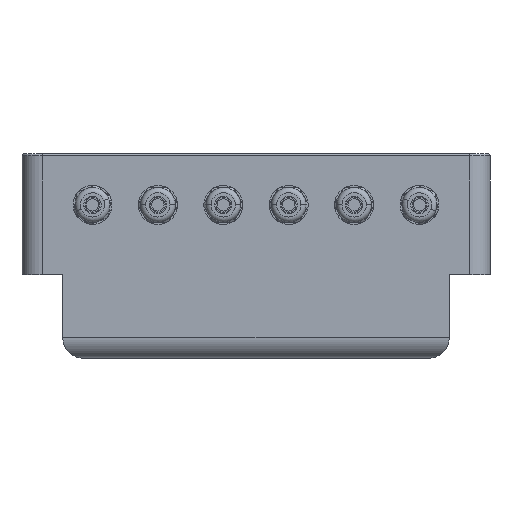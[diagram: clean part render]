
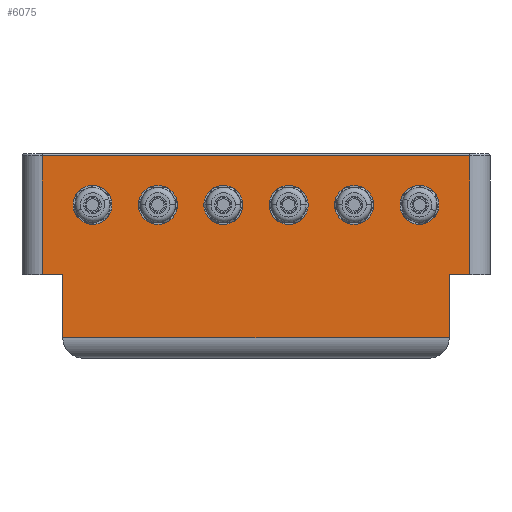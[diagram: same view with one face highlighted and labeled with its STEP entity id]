
A CAD part, front view. The second image highlights one B-rep face of the part: STEP entity #6075.
In plain terms, the highlighted planar face has unit normal (0, -1, 0).
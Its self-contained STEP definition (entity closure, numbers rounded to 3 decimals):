
#1282=CARTESIAN_POINT('',(-80.,-102.,25.));
#1283=DIRECTION('',(0.,1.,0.));
#1284=DIRECTION('',(-1.,0.,0.));
#1285=AXIS2_PLACEMENT_3D('',#1282,#1283,#1284);
#1287=CARTESIAN_POINT('',(-80.,-102.,25.));
#1288=DIRECTION('',(0.,1.,0.));
#1289=DIRECTION('',(1.,0.,0.));
#1290=AXIS2_PLACEMENT_3D('',#1287,#1288,#1289);
#1292=CARTESIAN_POINT('',(-48.,-102.,25.));
#1293=DIRECTION('',(0.,1.,0.));
#1294=DIRECTION('',(-1.,0.,0.));
#1295=AXIS2_PLACEMENT_3D('',#1292,#1293,#1294);
#1297=CARTESIAN_POINT('',(-48.,-102.,25.));
#1298=DIRECTION('',(0.,1.,0.));
#1299=DIRECTION('',(1.,0.,0.));
#1300=AXIS2_PLACEMENT_3D('',#1297,#1298,#1299);
#1302=CARTESIAN_POINT('',(-16.,-102.,25.));
#1303=DIRECTION('',(0.,1.,0.));
#1304=DIRECTION('',(-1.,0.,0.));
#1305=AXIS2_PLACEMENT_3D('',#1302,#1303,#1304);
#1307=CARTESIAN_POINT('',(-16.,-102.,25.));
#1308=DIRECTION('',(0.,1.,0.));
#1309=DIRECTION('',(1.,0.,0.));
#1310=AXIS2_PLACEMENT_3D('',#1307,#1308,#1309);
#1312=CARTESIAN_POINT('',(16.,-102.,25.));
#1313=DIRECTION('',(0.,-1.,0.));
#1314=DIRECTION('',(1.,0.,0.));
#1315=AXIS2_PLACEMENT_3D('',#1312,#1313,#1314);
#1317=CARTESIAN_POINT('',(16.,-102.,25.));
#1318=DIRECTION('',(0.,-1.,0.));
#1319=DIRECTION('',(-1.,0.,0.));
#1320=AXIS2_PLACEMENT_3D('',#1317,#1318,#1319);
#1322=CARTESIAN_POINT('',(48.,-102.,25.));
#1323=DIRECTION('',(0.,-1.,0.));
#1324=DIRECTION('',(1.,0.,0.));
#1325=AXIS2_PLACEMENT_3D('',#1322,#1323,#1324);
#1327=CARTESIAN_POINT('',(48.,-102.,25.));
#1328=DIRECTION('',(0.,-1.,0.));
#1329=DIRECTION('',(-1.,0.,0.));
#1330=AXIS2_PLACEMENT_3D('',#1327,#1328,#1329);
#1332=CARTESIAN_POINT('',(80.,-102.,25.));
#1333=DIRECTION('',(0.,-1.,0.));
#1334=DIRECTION('',(1.,0.,0.));
#1335=AXIS2_PLACEMENT_3D('',#1332,#1333,#1334);
#1337=CARTESIAN_POINT('',(80.,-102.,25.));
#1338=DIRECTION('',(0.,-1.,0.));
#1339=DIRECTION('',(-1.,0.,0.));
#1340=AXIS2_PLACEMENT_3D('',#1337,#1338,#1339);
#1342=DIRECTION('',(1.,0.,0.));
#1343=VECTOR('',#1342,209.);
#1344=CARTESIAN_POINT('',(-104.5,-102.,49.));
#1345=LINE('',#1344,#1343);
#1346=DIRECTION('',(0.,0.,-1.));
#1347=VECTOR('',#1346,58.064);
#1348=CARTESIAN_POINT('',(104.5,-102.,49.));
#1349=LINE('',#1348,#1347);
#1350=DIRECTION('',(-1.,0.,0.));
#1351=VECTOR('',#1350,10.);
#1352=CARTESIAN_POINT('',(104.5,-102.,-9.064));
#1353=LINE('',#1352,#1351);
#1354=DIRECTION('',(0.,0.,1.));
#1355=VECTOR('',#1354,30.936);
#1356=CARTESIAN_POINT('',(94.5,-102.,-40.));
#1357=LINE('',#1356,#1355);
#1358=DIRECTION('',(-1.,0.,0.));
#1359=VECTOR('',#1358,189.);
#1360=CARTESIAN_POINT('',(94.5,-102.,-40.));
#1361=LINE('',#1360,#1359);
#1362=DIRECTION('',(0.,0.,1.));
#1363=VECTOR('',#1362,30.936);
#1364=CARTESIAN_POINT('',(-94.5,-102.,-40.));
#1365=LINE('',#1364,#1363);
#1366=DIRECTION('',(1.,0.,0.));
#1367=VECTOR('',#1366,10.);
#1368=CARTESIAN_POINT('',(-104.5,-102.,-9.064));
#1369=LINE('',#1368,#1367);
#1370=DIRECTION('',(0.,0.,-1.));
#1371=VECTOR('',#1370,58.064);
#1372=CARTESIAN_POINT('',(-104.5,-102.,49.));
#1373=LINE('',#1372,#1371);
#3965=CARTESIAN_POINT('',(-104.5,-102.,-9.064));
#3966=CARTESIAN_POINT('',(-94.5,-102.,-9.064));
#3967=VERTEX_POINT('',#3965);
#3968=VERTEX_POINT('',#3966);
#3969=CARTESIAN_POINT('',(104.5,-102.,-9.064));
#3970=CARTESIAN_POINT('',(94.5,-102.,-9.064));
#3971=VERTEX_POINT('',#3969);
#3972=VERTEX_POINT('',#3970);
#3989=CARTESIAN_POINT('',(-86.,-102.,25.));
#3990=CARTESIAN_POINT('',(-74.,-102.,25.));
#3991=VERTEX_POINT('',#3989);
#3992=VERTEX_POINT('',#3990);
#3997=CARTESIAN_POINT('',(-54.,-102.,25.));
#3998=CARTESIAN_POINT('',(-42.,-102.,25.));
#3999=VERTEX_POINT('',#3997);
#4000=VERTEX_POINT('',#3998);
#4005=CARTESIAN_POINT('',(-22.,-102.,25.));
#4006=CARTESIAN_POINT('',(-10.,-102.,25.));
#4007=VERTEX_POINT('',#4005);
#4008=VERTEX_POINT('',#4006);
#4013=CARTESIAN_POINT('',(22.,-102.,25.));
#4014=VERTEX_POINT('',#4013);
#4015=CARTESIAN_POINT('',(10.,-102.,25.));
#4016=VERTEX_POINT('',#4015);
#4021=CARTESIAN_POINT('',(54.,-102.,25.));
#4022=VERTEX_POINT('',#4021);
#4023=CARTESIAN_POINT('',(42.,-102.,25.));
#4024=VERTEX_POINT('',#4023);
#4029=CARTESIAN_POINT('',(86.,-102.,25.));
#4030=VERTEX_POINT('',#4029);
#4031=CARTESIAN_POINT('',(74.,-102.,25.));
#4032=VERTEX_POINT('',#4031);
#4041=CARTESIAN_POINT('',(-94.5,-102.,-40.));
#4042=VERTEX_POINT('',#4041);
#4045=CARTESIAN_POINT('',(94.5,-102.,-40.));
#4046=VERTEX_POINT('',#4045);
#4071=CARTESIAN_POINT('',(-104.5,-102.,49.));
#4072=VERTEX_POINT('',#4071);
#4075=CARTESIAN_POINT('',(104.5,-102.,49.));
#4076=VERTEX_POINT('',#4075);
#6017=CARTESIAN_POINT('',(-114.5,-102.,-50.));
#6018=DIRECTION('',(0.,-1.,0.));
#6019=DIRECTION('',(1.,0.,0.));
#6020=AXIS2_PLACEMENT_3D('',#6017,#6018,#6019);
#6021=PLANE('',#6020);
#6023=ORIENTED_EDGE('',*,*,#6022,.T.);
#6025=ORIENTED_EDGE('',*,*,#6024,.T.);
#6026=ORIENTED_EDGE('',*,*,#6004,.T.);
#6028=ORIENTED_EDGE('',*,*,#6027,.F.);
#6030=ORIENTED_EDGE('',*,*,#6029,.T.);
#6032=ORIENTED_EDGE('',*,*,#6031,.T.);
#6034=ORIENTED_EDGE('',*,*,#6033,.F.);
#6036=ORIENTED_EDGE('',*,*,#6035,.F.);
#6037=EDGE_LOOP('',(#6023,#6025,#6026,#6028,#6030,#6032,#6034,#6036));
#6038=FACE_OUTER_BOUND('',#6037,.F.);
#6040=ORIENTED_EDGE('',*,*,#6039,.F.);
#6042=ORIENTED_EDGE('',*,*,#6041,.F.);
#6043=EDGE_LOOP('',(#6040,#6042));
#6044=FACE_BOUND('',#6043,.F.);
#6046=ORIENTED_EDGE('',*,*,#6045,.F.);
#6048=ORIENTED_EDGE('',*,*,#6047,.F.);
#6049=EDGE_LOOP('',(#6046,#6048));
#6050=FACE_BOUND('',#6049,.F.);
#6052=ORIENTED_EDGE('',*,*,#6051,.T.);
#6054=ORIENTED_EDGE('',*,*,#6053,.T.);
#6055=EDGE_LOOP('',(#6052,#6054));
#6056=FACE_BOUND('',#6055,.F.);
#6058=ORIENTED_EDGE('',*,*,#6057,.T.);
#6060=ORIENTED_EDGE('',*,*,#6059,.T.);
#6061=EDGE_LOOP('',(#6058,#6060));
#6062=FACE_BOUND('',#6061,.F.);
#6064=ORIENTED_EDGE('',*,*,#6063,.T.);
#6066=ORIENTED_EDGE('',*,*,#6065,.T.);
#6067=EDGE_LOOP('',(#6064,#6066));
#6068=FACE_BOUND('',#6067,.F.);
#6070=ORIENTED_EDGE('',*,*,#6069,.F.);
#6072=ORIENTED_EDGE('',*,*,#6071,.F.);
#6073=EDGE_LOOP('',(#6070,#6072));
#6074=FACE_BOUND('',#6073,.F.);
#6075=ADVANCED_FACE('',(#6038,#6044,#6050,#6056,#6062,#6068,#6074),#6021,.T.);
#1286=CIRCLE('',#1285,6.);
#1291=CIRCLE('',#1290,6.);
#1296=CIRCLE('',#1295,6.);
#1301=CIRCLE('',#1300,6.);
#1306=CIRCLE('',#1305,6.);
#1311=CIRCLE('',#1310,6.);
#1316=CIRCLE('',#1315,6.);
#1321=CIRCLE('',#1320,6.);
#1326=CIRCLE('',#1325,6.);
#1331=CIRCLE('',#1330,6.);
#1336=CIRCLE('',#1335,6.);
#1341=CIRCLE('',#1340,6.);
#6004=EDGE_CURVE('',#3971,#3972,#1353,.T.);
#6022=EDGE_CURVE('',#4072,#4076,#1345,.T.);
#6024=EDGE_CURVE('',#4076,#3971,#1349,.T.);
#6027=EDGE_CURVE('',#4046,#3972,#1357,.T.);
#6029=EDGE_CURVE('',#4046,#4042,#1361,.T.);
#6031=EDGE_CURVE('',#4042,#3968,#1365,.T.);
#6033=EDGE_CURVE('',#3967,#3968,#1369,.T.);
#6035=EDGE_CURVE('',#4072,#3967,#1373,.T.);
#6039=EDGE_CURVE('',#3999,#4000,#1296,.T.);
#6041=EDGE_CURVE('',#4000,#3999,#1301,.T.);
#6045=EDGE_CURVE('',#4007,#4008,#1306,.T.);
#6047=EDGE_CURVE('',#4008,#4007,#1311,.T.);
#6051=EDGE_CURVE('',#4014,#4016,#1316,.T.);
#6053=EDGE_CURVE('',#4016,#4014,#1321,.T.);
#6057=EDGE_CURVE('',#4022,#4024,#1326,.T.);
#6059=EDGE_CURVE('',#4024,#4022,#1331,.T.);
#6063=EDGE_CURVE('',#4030,#4032,#1336,.T.);
#6065=EDGE_CURVE('',#4032,#4030,#1341,.T.);
#6069=EDGE_CURVE('',#3991,#3992,#1286,.T.);
#6071=EDGE_CURVE('',#3992,#3991,#1291,.T.);
